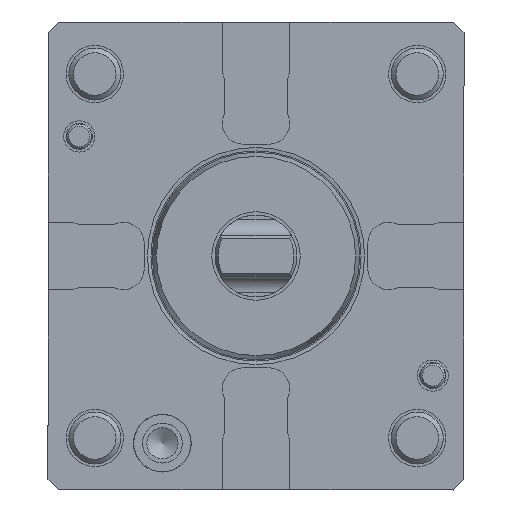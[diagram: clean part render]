
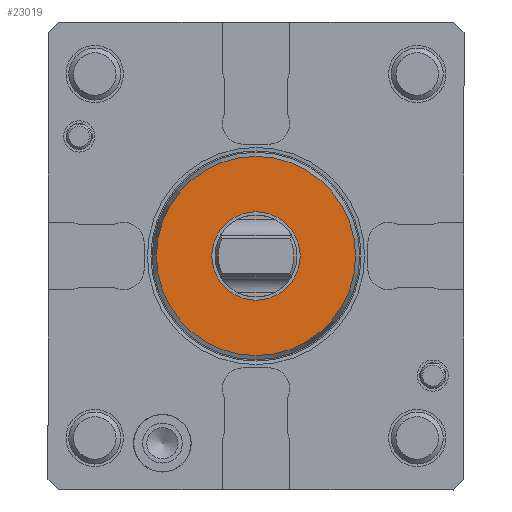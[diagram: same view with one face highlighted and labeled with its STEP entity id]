
A CAD part, left-side view. The second image highlights one B-rep face of the part: STEP entity #23019.
In plain terms, the highlighted planar face has unit normal (-1, 0, 0).
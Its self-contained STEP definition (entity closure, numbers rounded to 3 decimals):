
#10085=PLANE('',#22398);
#11466=ORIENTED_EDGE('',*,*,#13320,.F.);
#11467=ORIENTED_EDGE('',*,*,#13321,.T.);
#11993=CIRCLE('',#22397,19.146);
#11994=CIRCLE('',#22399,8.5);
#12543=VERTEX_POINT('',#21448);
#12544=VERTEX_POINT('',#21451);
#13320=EDGE_CURVE('',#12543,#12543,#11993,.T.);
#13321=EDGE_CURVE('',#12544,#12544,#11994,.T.);
#13861=EDGE_LOOP('',(#11466));
#13862=EDGE_LOOP('',(#11467));
#14455=FACE_BOUND('',#13861,.T.);
#14456=FACE_BOUND('',#13862,.T.);
#15904=DIRECTION('',(1.,0.,0.));
#15905=DIRECTION('',(0.,0.,19.146));
#15906=DIRECTION('',(-1.,0.,0.));
#15907=DIRECTION('',(0.,1.,0.));
#15908=DIRECTION('',(1.,0.,0.));
#15909=DIRECTION('',(0.,0.,-8.5));
#21448=CARTESIAN_POINT('',(-32.,0.,19.146));
#21449=CARTESIAN_POINT('',(-32.,0.,0.));
#21450=CARTESIAN_POINT('',(-32.,0.,19.146));
#21451=CARTESIAN_POINT('',(-32.,0.,-8.5));
#21452=CARTESIAN_POINT('',(-32.,0.,0.));
#22397=AXIS2_PLACEMENT_3D('',#21449,#15904,#15905);
#22398=AXIS2_PLACEMENT_3D('',#21450,#15906,#15907);
#22399=AXIS2_PLACEMENT_3D('',#21452,#15908,#15909);
#23019=ADVANCED_FACE('',(#14455,#14456),#10085,.T.);
